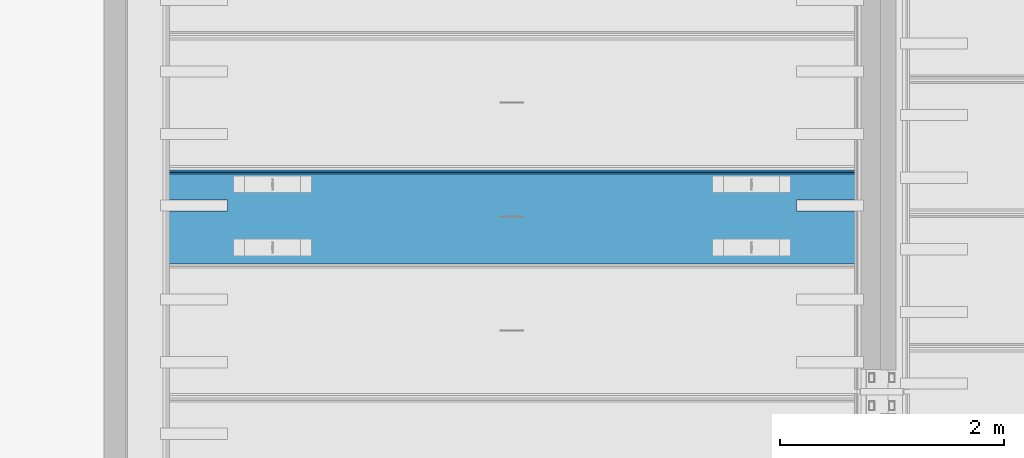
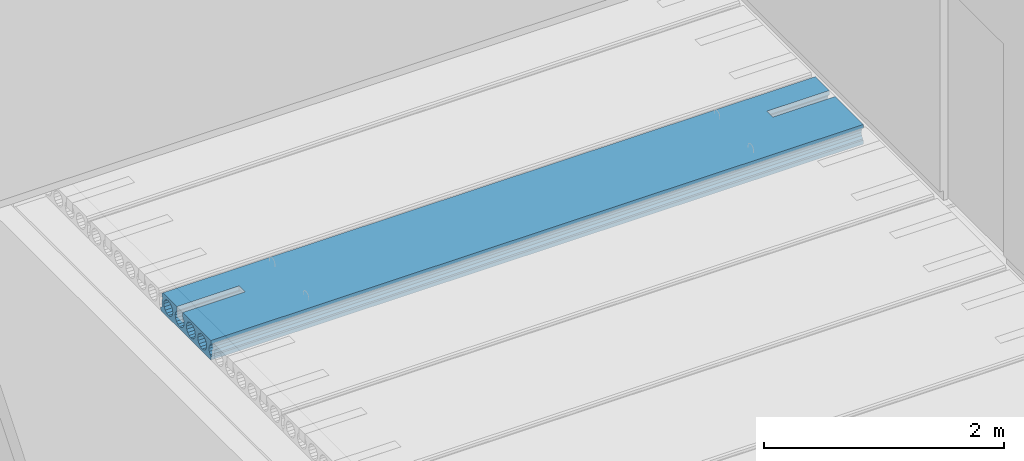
# One storey, part 117 of 230: 1 beam.
"""IFC4X3_ADD2 building model written with IfcOpenShell, lengths in millimetres."""

from ifc_helpers import new_model, si_unit, direction, origin_with_axes, place, context, subcontext, project, spatial, polygons, element, save


model = new_model("IFC4X3_ADD2")

# Units and contexts
model_context = context("Model", 3, precision=1e-05, world=origin_with_axes(), true_north=direction((0.0, 1.0)))
body_context = subcontext(model_context, "Body", "Model", "MODEL_VIEW")
ifc_project = project(units=[si_unit("LENGTHUNIT", "METRE", prefix="MILLI"), si_unit("AREAUNIT", "SQUARE_METRE"), si_unit("VOLUMEUNIT", "CUBIC_METRE"), si_unit("PLANEANGLEUNIT", "RADIAN"), si_unit("TIMEUNIT", "SECOND"), si_unit("MASSUNIT", "GRAM")], contexts=[model_context])

# Site, building, storey
site_placement = place(None, origin_with_axes())
site = spatial("IfcSite", under=ifc_project, at=site_placement, Name="Site", CompositionType="ELEMENT")
building_placement = place(site_placement, origin_with_axes())
building = spatial("IfcBuilding", under=site, at=building_placement, Name="IFC Building Story")
storey_placement = place(building_placement, origin_with_axes())
storey = spatial("IfcBuildingStorey", under=building, at=storey_placement, Name="ETAGE 00 (0)", Elevation=0.0)

# Beam
beam_placement = place(storey_placement, origin_with_axes())
element("IfcBeam", 1, at=beam_placement, inside=storey, Name="HOLLOWCORE SLAB", ObjectType="EB_SP200", context=body_context, shape_type="Tessellation", body=[
    polygons([(33516.189, 14180.0008970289, 4199.9999909), (33516.189, 14180.0008970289, 4153.133443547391), (33516.189, 14179.3214418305, 4152.679446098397), (33516.189, 14163.17187185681, 4128.509906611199), (33516.189, 14157.5008970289, 4099.9999909), (33516.189, 14163.17187185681, 4071.490075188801), (33516.189, 14179.3214418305, 4047.320535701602), (33516.189, 14203.4909813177, 4031.170965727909), (33516.189, 14232.0008970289, 4025.4999909), (33516.189, 14260.5108127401, 4031.170965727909), (33516.189, 14284.6803522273, 4047.320535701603), (33516.189, 14300.82992220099, 4071.490075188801), (33516.189, 14306.5008970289, 4099.9999909), (33516.189, 14300.82992220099, 4128.509906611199), (33516.189, 14284.6803522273, 4152.679446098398), (33516.189, 14280.0008970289, 4155.806158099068), (33516.189, 14280.0008970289, 4199.9999909), (33516.189, 14512.0008970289, 4199.9999909), (33516.189, 14527.28960086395, 4185.002769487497), (33516.189, 14527.77091656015, 4159.9999909), (33516.189, 14520.58226061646, 4151.036789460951), (33516.189, 14518.16096701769, 4139.805000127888), (33516.189, 14521.01827555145, 4128.676139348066), (33516.189, 14528.55088482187, 4119.9999909), (33516.189, 14530.0008970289, 4044.9999909), (33516.189, 14550.0008970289, 4029.9999909), (33516.189, 14550.0008970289, 4012.9999909), (33516.189, 14539.0008970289, 3999.9999909), (33516.189, 13710.0009155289, 3999.9999909), (33516.189, 13710.0009155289, 4040.18476423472), (33516.189, 13720.6803522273, 4047.320535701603), (33516.189, 13736.82992220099, 4071.490075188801), (33516.189, 13742.5008970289, 4099.9999909), (33516.189, 13736.82992220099, 4128.509906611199), (33516.189, 13720.6803522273, 4152.679446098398), (33516.189, 13710.0009155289, 4159.815217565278), (33516.189, 13710.0009155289, 4199.9999909), (33516.189, 14472.6803522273, 4152.679446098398), (33516.189, 14448.5108127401, 4168.829016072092), (33516.189, 14420.0008970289, 4174.4999909), (33516.189, 14391.4909813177, 4168.829016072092), (33516.189, 14367.3214418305, 4152.679446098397), (33516.189, 14351.17187185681, 4128.509906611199), (33516.189, 14345.5008970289, 4099.9999909), (33516.189, 14351.17187185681, 4071.490075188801), (33516.189, 14367.3214418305, 4047.320535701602), (33516.189, 14391.4909813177, 4031.170965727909), (33516.189, 14420.0008970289, 4025.4999909), (33516.189, 14448.5108127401, 4031.170965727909), (33516.189, 14472.6803522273, 4047.320535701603), (33516.189, 14488.82992220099, 4071.490075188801), (33516.189, 14494.5008970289, 4099.9999909), (33516.189, 14488.82992220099, 4128.509906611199), (33516.189, 14096.6803522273, 4152.679446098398), (33516.189, 14072.5108127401, 4168.829016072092), (33516.189, 14044.0008970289, 4174.4999909), (33516.189, 14015.4909813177, 4168.829016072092), (33516.189, 13991.3214418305, 4152.679446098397), (33516.189, 13975.17187185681, 4128.509906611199), (33516.189, 13969.5008970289, 4099.9999909), (33516.189, 13975.17187185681, 4071.490075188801), (33516.189, 13991.3214418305, 4047.320535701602), (33516.189, 14015.4909813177, 4031.170965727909), (33516.189, 14044.0008970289, 4025.4999909), (33516.189, 14072.5108127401, 4031.170965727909), (33516.189, 14096.6803522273, 4047.320535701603), (33516.189, 14112.82992220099, 4071.490075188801), (33516.189, 14118.5008970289, 4099.9999909), (33516.189, 14112.82992220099, 4128.509906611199), (33516.189, 13908.6803522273, 4152.679446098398), (33516.189, 13884.5108127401, 4168.829016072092), (33516.189, 13856.0008970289, 4174.4999909), (33516.189, 13827.4909813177, 4168.829016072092), (33516.189, 13803.3214418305, 4152.679446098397), (33516.189, 13787.17187185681, 4128.509906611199), (33516.189, 13781.5008970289, 4099.9999909), (33516.189, 13787.17187185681, 4071.490075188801), (33516.189, 13803.3214418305, 4047.320535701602), (33516.189, 13827.4909813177, 4031.170965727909), (33516.189, 13856.0008970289, 4025.4999909), (33516.189, 13884.5108127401, 4031.170965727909), (33516.189, 13908.6803522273, 4047.320535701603), (33516.189, 13924.82992220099, 4071.490075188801), (33516.189, 13930.5008970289, 4099.9999909), (33516.189, 13924.82992220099, 4128.509906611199), (39801.189, 14539.0008970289, 3999.9999909), (39801.189, 14550.0008970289, 4012.9999909), (39801.189, 14550.0008970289, 4029.9999909), (39801.189, 14530.0008970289, 4044.9999909), (39801.189, 14528.55088482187, 4119.9999909), (39801.189, 14521.01827555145, 4128.676139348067), (39801.189, 14518.16096701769, 4139.805000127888), (39801.189, 14520.58226061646, 4151.036789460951), (39801.189, 14527.77091656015, 4159.9999909), (39801.189, 14527.28960086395, 4185.002769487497), (39801.189, 14512.0008970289, 4199.9999909), (39801.189, 14280.0008970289, 4199.9999909), (39801.189, 14280.0008970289, 4155.806158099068), (39801.189, 14284.6803522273, 4152.679446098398), (39801.189, 14300.82992220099, 4128.509906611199), (39801.189, 14306.5008970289, 4099.9999909), (39801.189, 14300.82992220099, 4071.490075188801), (39801.189, 14284.6803522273, 4047.320535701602), (39801.189, 14260.5108127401, 4031.170965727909), (39801.189, 14232.0008970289, 4025.4999909), (39801.189, 14203.4909813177, 4031.170965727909), (39801.189, 14179.3214418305, 4047.320535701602), (39801.189, 14163.17187185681, 4071.490075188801), (39801.189, 14157.5008970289, 4099.9999909), (39801.189, 14163.17187185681, 4128.509906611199), (39801.189, 14179.3214418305, 4152.679446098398), (39801.189, 14180.0008970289, 4153.133443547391), (39801.189, 14180.0008970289, 4199.9999909), (39801.189, 13710.0009155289, 4199.9999909), (39801.189, 13710.0009155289, 4159.815217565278), (39801.189, 13720.6803522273, 4152.679446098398), (39801.189, 13736.82992220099, 4128.509906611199), (39801.189, 13742.5008970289, 4099.9999909), (39801.189, 13736.82992220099, 4071.490075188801), (39801.189, 13720.6803522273, 4047.320535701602), (39801.189, 13710.0009155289, 4040.18476423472), (39801.189, 13710.0009155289, 3999.9999909), (39801.189, 14472.6803522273, 4152.679446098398), (39801.189, 14488.82992220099, 4128.509906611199), (39801.189, 14494.5008970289, 4099.9999909), (39801.189, 14488.82992220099, 4071.490075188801), (39801.189, 14472.6803522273, 4047.320535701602), (39801.189, 14448.5108127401, 4031.170965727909), (39801.189, 14420.0008970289, 4025.4999909), (39801.189, 14391.4909813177, 4031.170965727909), (39801.189, 14367.3214418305, 4047.320535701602), (39801.189, 14351.17187185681, 4071.490075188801), (39801.189, 14345.5008970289, 4099.9999909), (39801.189, 14351.17187185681, 4128.509906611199), (39801.189, 14367.3214418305, 4152.679446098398), (39801.189, 14391.4909813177, 4168.829016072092), (39801.189, 14420.0008970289, 4174.4999909), (39801.189, 14448.5108127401, 4168.829016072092), (39801.189, 14096.6803522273, 4152.679446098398), (39801.189, 14112.82992220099, 4128.509906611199), (39801.189, 14118.5008970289, 4099.9999909), (39801.189, 14112.82992220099, 4071.490075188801), (39801.189, 14096.6803522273, 4047.320535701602), (39801.189, 14072.5108127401, 4031.170965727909), (39801.189, 14044.0008970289, 4025.4999909), (39801.189, 14015.4909813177, 4031.170965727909), (39801.189, 13991.3214418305, 4047.320535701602), (39801.189, 13975.17187185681, 4071.490075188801), (39801.189, 13969.5008970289, 4099.9999909), (39801.189, 13975.17187185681, 4128.509906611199), (39801.189, 13991.3214418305, 4152.679446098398), (39801.189, 14015.4909813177, 4168.829016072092), (39801.189, 14044.0008970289, 4174.4999909), (39801.189, 14072.5108127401, 4168.829016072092), (39801.189, 13908.6803522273, 4152.679446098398), (39801.189, 13924.82992220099, 4128.509906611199), (39801.189, 13930.5008970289, 4099.9999909), (39801.189, 13924.82992220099, 4071.490075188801), (39801.189, 13908.6803522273, 4047.320535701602), (39801.189, 13884.5108127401, 4031.170965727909), (39801.189, 13856.0008970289, 4025.4999909), (39801.189, 13827.4909813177, 4031.170965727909), (39801.189, 13803.3214418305, 4047.320535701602), (39801.189, 13787.17187185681, 4071.490075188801), (39801.189, 13781.5008970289, 4099.9999909), (39801.189, 13787.17187185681, 4128.509906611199), (39801.189, 13803.3214418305, 4152.679446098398), (39801.189, 13827.4909813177, 4168.829016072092), (39801.189, 13856.0008970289, 4174.4999909), (39801.189, 13884.5108127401, 4168.829016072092), (34116.189, 14280.0008970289, 4199.9999909), (34116.189, 14180.0008970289, 4199.9999909), (39201.189, 14180.0008970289, 4199.9999909), (39201.189, 14280.0008970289, 4199.9999909), (39201.189, 14280.0008970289, 4155.806158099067), (39201.189, 14260.5108127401, 4168.829016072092), (34116.189, 14260.5108127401, 4168.829016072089), (34116.189, 14280.0008970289, 4155.806158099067), (39201.189, 14232.0008970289, 4174.4999909), (34116.189, 14232.0008970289, 4174.4999909), (39201.189, 14203.4909813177, 4168.829016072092), (34116.189, 14203.4909813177, 4168.829016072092), (34116.189, 14180.0008970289, 4153.133443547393), (39201.189, 14180.0008970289, 4153.133443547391), (34116.189, 14180.0008970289, 4199.999996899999), (34116.189, 14280.0008970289, 4199.999996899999), (39201.189, 14280.0008970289, 4199.999996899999), (39201.189, 14180.0008970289, 4199.999996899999)], [[[69, 54, 1]], [[69, 1, 2]], [[4, 5, 68]], [[4, 68, 69]], [[69, 3, 4]], [[69, 2, 3]], [[6, 7, 67]], [[67, 68, 5]], [[67, 5, 6]], [[7, 66, 67]], [[15, 16, 17]], [[41, 42, 14]], [[41, 14, 15]], [[41, 15, 17]], [[17, 40, 41]], [[17, 18, 40]], [[18, 39, 40]], [[18, 38, 39]], [[43, 44, 13]], [[43, 13, 14]], [[14, 42, 43]], [[45, 46, 12]], [[12, 13, 44]], [[12, 44, 45]], [[21, 22, 53]], [[21, 53, 38]], [[38, 18, 19]], [[38, 19, 20]], [[38, 20, 21]], [[23, 24, 52]], [[23, 52, 53]], [[53, 22, 23]], [[24, 25, 51]], [[24, 51, 52]], [[25, 26, 27]], [[25, 27, 28]], [[28, 50, 51]], [[28, 51, 25]], [[28, 49, 50]], [[28, 48, 49]], [[28, 47, 48]], [[28, 11, 47]], [[11, 12, 46]], [[11, 46, 47]], [[28, 10, 11]], [[28, 9, 10]], [[28, 65, 9]], [[65, 8, 9]], [[65, 66, 7]], [[65, 7, 8]], [[28, 64, 65]], [[28, 29, 64]], [[29, 63, 64]], [[29, 62, 63]], [[35, 36, 37]], [[73, 74, 34]], [[73, 34, 35]], [[73, 35, 37]], [[37, 72, 73]], [[72, 37, 1]], [[1, 71, 72]], [[1, 70, 71]], [[75, 76, 33]], [[75, 33, 34]], [[34, 74, 75]], [[77, 78, 32]], [[32, 33, 76]], [[32, 76, 77]], [[81, 82, 61]], [[81, 61, 62]], [[62, 80, 81]], [[80, 62, 29]], [[29, 79, 80]], [[29, 31, 32]], [[29, 32, 78]], [[29, 78, 79]], [[29, 30, 31]], [[83, 84, 60]], [[83, 60, 61]], [[61, 82, 83]], [[85, 70, 59]], [[59, 60, 84]], [[59, 84, 85]], [[70, 58, 59]], [[70, 57, 58]], [[70, 56, 57]], [[56, 70, 1]], [[1, 55, 56]], [[1, 54, 55]], [[120, 121, 122]], [[93, 94, 95]], [[93, 95, 96]], [[93, 96, 123]], [[123, 124, 92]], [[123, 92, 93]], [[124, 91, 92]], [[126, 127, 89]], [[89, 90, 125]], [[89, 125, 126]], [[90, 91, 124]], [[90, 124, 125]], [[138, 123, 96]], [[96, 137, 138]], [[137, 96, 97]], [[97, 136, 137]], [[97, 135, 136]], [[97, 98, 134]], [[97, 134, 135]], [[100, 101, 133]], [[100, 133, 134]], [[134, 99, 100]], [[134, 98, 99]], [[102, 103, 132]], [[132, 133, 101]], [[132, 101, 102]], [[103, 131, 132]], [[111, 112, 113]], [[113, 139, 110]], [[113, 110, 111]], [[140, 141, 109]], [[140, 109, 110]], [[110, 139, 140]], [[142, 143, 108]], [[108, 109, 141]], [[108, 141, 142]], [[143, 107, 108]], [[154, 139, 113]], [[113, 153, 154]], [[113, 155, 153]], [[155, 152, 153]], [[155, 151, 152]], [[155, 150, 151]], [[156, 157, 149]], [[156, 149, 150]], [[150, 155, 156]], [[158, 159, 148]], [[148, 149, 157]], [[148, 157, 158]], [[162, 163, 119]], [[162, 119, 120]], [[162, 120, 122]], [[122, 161, 162]], [[122, 147, 161]], [[147, 160, 161]], [[147, 148, 159]], [[147, 159, 160]], [[122, 146, 147]], [[122, 145, 146]], [[122, 106, 145]], [[106, 144, 145]], [[106, 107, 143]], [[106, 143, 144]], [[122, 105, 106]], [[122, 130, 105]], [[130, 104, 105]], [[130, 131, 103]], [[130, 103, 104]], [[122, 129, 130]], [[122, 86, 129]], [[86, 128, 129]], [[86, 89, 127]], [[86, 127, 128]], [[86, 87, 88]], [[86, 88, 89]], [[164, 165, 118]], [[164, 118, 119]], [[119, 163, 164]], [[166, 167, 117]], [[117, 118, 165]], [[117, 165, 166]], [[170, 155, 113]], [[113, 169, 170]], [[113, 114, 169]], [[114, 168, 169]], [[114, 116, 117]], [[114, 117, 167]], [[114, 167, 168]], [[114, 115, 116]], [[28, 86, 122, 29]], [[172, 1, 37]], [[172, 37, 114]], [[114, 171, 172]], [[174, 97, 96]], [[174, 96, 18]], [[18, 173, 174]], [[18, 171, 114]], [[18, 114, 173]], [[114, 113, 173]], [[18, 17, 171]], [[19, 18, 96, 95]], [[20, 19, 95, 94]], [[21, 20, 94, 93]], [[22, 21, 93, 92]], [[23, 22, 92, 91]], [[24, 23, 91, 90]], [[25, 24, 90, 89]], [[26, 25, 89, 88]], [[27, 26, 88, 87]], [[28, 27, 87, 86]], [[39, 38, 123, 138]], [[40, 39, 138, 137]], [[41, 40, 137, 136]], [[42, 41, 136, 135]], [[43, 42, 135, 134]], [[44, 43, 134, 133]], [[45, 44, 133, 132]], [[46, 45, 132, 131]], [[47, 46, 131, 130]], [[48, 47, 130, 129]], [[49, 48, 129, 128]], [[50, 49, 128, 127]], [[51, 50, 127, 126]], [[52, 51, 126, 125]], [[53, 52, 125, 124]], [[38, 53, 124, 123]], [[178, 16, 15]], [[178, 15, 175]], [[175, 176, 177]], [[175, 177, 178]], [[15, 99, 175]], [[99, 98, 175]], [[177, 176, 179, 180]], [[180, 179, 181, 182]], [[184, 112, 111]], [[184, 111, 183]], [[183, 182, 181]], [[183, 181, 184]], [[111, 3, 183]], [[3, 2, 183]], [[4, 3, 111, 110]], [[5, 4, 110, 109]], [[6, 5, 109, 108]], [[7, 6, 108, 107]], [[8, 7, 107, 106]], [[9, 8, 106, 105]], [[10, 9, 105, 104]], [[11, 10, 104, 103]], [[12, 11, 103, 102]], [[13, 12, 102, 101]], [[14, 13, 101, 100]], [[15, 14, 100, 99]], [[55, 54, 139, 154]], [[56, 55, 154, 153]], [[57, 56, 153, 152]], [[58, 57, 152, 151]], [[59, 58, 151, 150]], [[60, 59, 150, 149]], [[61, 60, 149, 148]], [[62, 61, 148, 147]], [[63, 62, 147, 146]], [[64, 63, 146, 145]], [[65, 64, 145, 144]], [[66, 65, 144, 143]], [[67, 66, 143, 142]], [[68, 67, 142, 141]], [[69, 68, 141, 140]], [[54, 69, 140, 139]], [[71, 70, 155, 170]], [[72, 71, 170, 169]], [[73, 72, 169, 168]], [[74, 73, 168, 167]], [[75, 74, 167, 166]], [[76, 75, 166, 165]], [[77, 76, 165, 164]], [[78, 77, 164, 163]], [[79, 78, 163, 162]], [[80, 79, 162, 161]], [[81, 80, 161, 160]], [[82, 81, 160, 159]], [[83, 82, 159, 158]], [[84, 83, 158, 157]], [[85, 84, 157, 156]], [[70, 85, 156, 155]], [[35, 116, 115, 36]], [[120, 31, 30, 121]], [[32, 31, 120, 119]], [[33, 32, 119, 118]], [[34, 33, 118, 117]], [[35, 34, 117, 116]], [[17, 16, 178, 171]], [[2, 1, 185, 183]], [[182, 183, 172]], [[172, 186, 180]], [[172, 180, 182]], [[186, 177, 180]], [[186, 178, 177]], [[113, 112, 184, 173]], [[98, 97, 187, 175]], [[176, 175, 174]], [[174, 179, 176]], [[174, 188, 181]], [[174, 181, 179]], [[188, 184, 181]], [[30, 29, 122, 121]], [[37, 36, 115, 114]]]),
])

save(model, "model.ifc")
